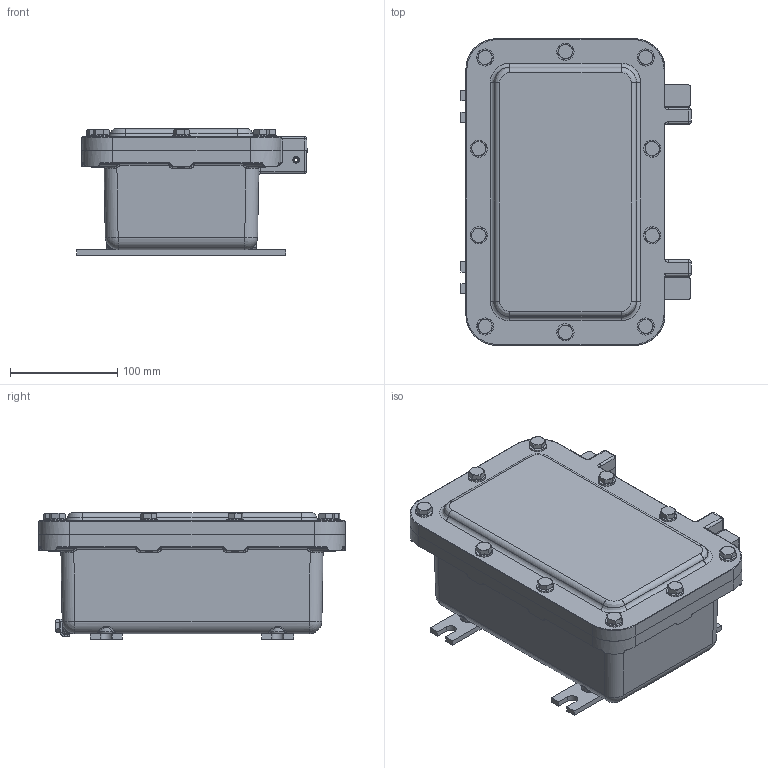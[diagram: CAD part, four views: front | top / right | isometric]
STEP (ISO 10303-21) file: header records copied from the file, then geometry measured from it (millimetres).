
FILE_DESCRIPTION((''),'2;1');
FILE_NAME('\\file-server\cortem_klient\INVENTOR БАЗА МОДЕЛЕЙ\Актуальная база моделей для отдела продаж\ЩОРВ-Н\ЩОРВ-Н281811.stp','2019-04-10T14:49:15',('V.E.Dolguev'),(''),'Autodesk Inventor 2012','Autodesk Inventor 2012','');
FILE_SCHEMA(('AUTOMOTIVE_DESIGN { 1 0 10303 214 1 1 1 1 }'));
Length unit declared in the file: millimetre
Products named in the file (1): ЩОРВ-Н281811
Bounding box: 214.72 x 286 x 117.9 mm (x, y, z)
Surface area: 430445.4 mm2 (no closed solid volume)
Topology: 0 solids, 37 shells, 1501 faces, 3547 edges, 2173 vertices
Faces by surface type: plane 504, bspline 389, cylinder 383, cone 119, sphere 74, torus 32
Full cylindrical faces by diameter (mm): 3.9 x2, 4.917 x4, 5 x4, 6 x7, 6.4 x1, 6.5 x1, 6.647 x14, 7.323 x10, 7.9 x3, 8 x16, 8.4 x10, 8.5 x10, 9 x4, 11.4 x10, 12 x1, 16 x14
Entity records: 57128 total; most frequent: CARTESIAN_POINT 23950, ORIENTED_EDGE 6660, DIRECTION 5850, EDGE_CURVE 3330, AXIS2_PLACEMENT_3D 2219, VERTEX_POINT 2140, EDGE_LOOP 1824, FACE_OUTER_BOUND 1501
